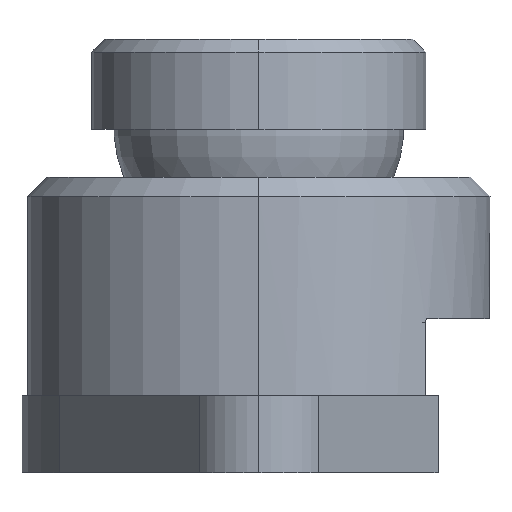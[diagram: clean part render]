
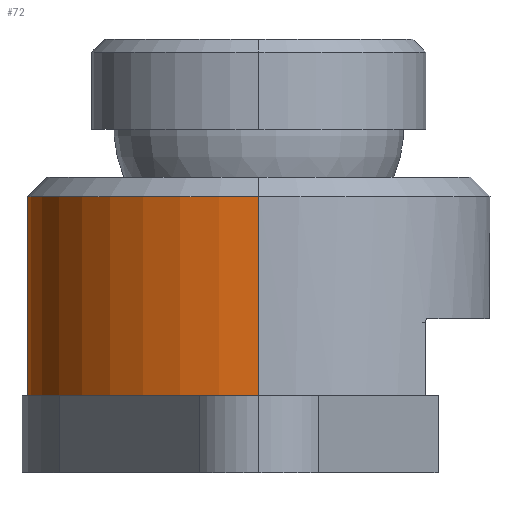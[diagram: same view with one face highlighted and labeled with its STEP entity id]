
A CAD part, left-side view. The second image highlights one B-rep face of the part: STEP entity #72.
In plain terms, the highlighted cylindrical face has radius 18 mm (diameter 36 mm), a partial arc.
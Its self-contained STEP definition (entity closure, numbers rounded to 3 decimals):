
#72=ADVANCED_FACE('',(#171),#172,.T.);
#171=FACE_OUTER_BOUND('',#331,.T.);
#172=CYLINDRICAL_SURFACE('',#332,18.0);
#331=EDGE_LOOP('',(#628,#629,#630,#631));
#332=AXIS2_PLACEMENT_3D('',#632,#633,#634);
#628=ORIENTED_EDGE('',*,*,#1116,.F.);
#629=ORIENTED_EDGE('',*,*,#1117,.F.);
#630=ORIENTED_EDGE('',*,*,#1118,.F.);
#631=ORIENTED_EDGE('',*,*,#1113,.F.);
#632=CARTESIAN_POINT('',(0.0,0.0,10.75));
#633=DIRECTION('',(0.0,0.,1.0));
#634=DIRECTION('',(1.0,0.,0.));
#1113=EDGE_CURVE('',#1406,#1409,#1410,.T.);
#1116=EDGE_CURVE('',#1414,#1406,#1415,.T.);
#1117=EDGE_CURVE('',#1416,#1414,#1417,.T.);
#1118=EDGE_CURVE('',#1409,#1416,#1418,.T.);
#1406=VERTEX_POINT('',#1760);
#1409=VERTEX_POINT('',#1764);
#1410=CIRCLE('',#1765,18.0);
#1414=VERTEX_POINT('',#1770);
#1415=LINE('',#1771,#1772);
#1416=VERTEX_POINT('',#1773);
#1417=CIRCLE('',#1774,18.0);
#1418=LINE('',#1775,#1776);
#1760=CARTESIAN_POINT('',(18.0,0.,21.5));
#1764=CARTESIAN_POINT('',(-18.0,0.,21.5));
#1765=AXIS2_PLACEMENT_3D('',#2172,#2173,#2174);
#1770=CARTESIAN_POINT('',(18.0,0.,6.0));
#1771=CARTESIAN_POINT('',(18.0,0.,10.75));
#1772=VECTOR('',#2179,1.0);
#1773=CARTESIAN_POINT('',(-18.0,0.,6.0));
#1774=AXIS2_PLACEMENT_3D('',#2180,#2181,#2182);
#1775=CARTESIAN_POINT('',(-18.0,0.,10.75));
#1776=VECTOR('',#2183,1.0);
#2172=CARTESIAN_POINT('',(0.0,0.0,21.5));
#2173=DIRECTION('',(0.0,0.,1.0));
#2174=DIRECTION('',(1.0,0.,0.));
#2179=DIRECTION('',(0.0,0.,1.0));
#2180=CARTESIAN_POINT('',(0.0,0.0,6.0));
#2181=DIRECTION('',(0.0,0.0,-1.0));
#2182=DIRECTION('',(1.0,0.0,0.0));
#2183=DIRECTION('',(-0.0,0.,-1.0));
